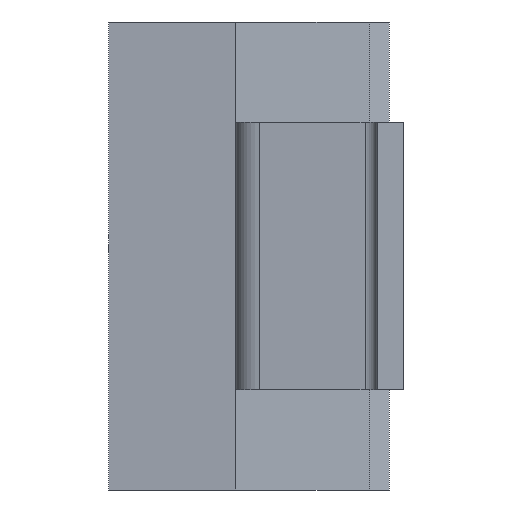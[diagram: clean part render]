
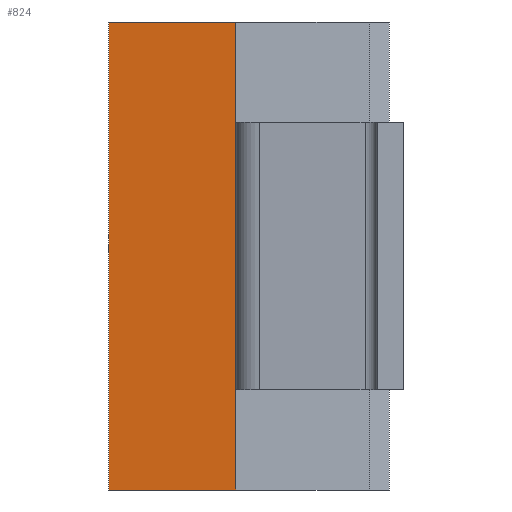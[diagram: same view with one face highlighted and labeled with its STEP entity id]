
A CAD part, left-side view. The second image highlights one B-rep face of the part: STEP entity #824.
In plain terms, the highlighted planar face has unit normal (-0.996, 0.087, 0).
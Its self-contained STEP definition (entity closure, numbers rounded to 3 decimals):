
#36 = DIRECTION ( 'NONE',  ( 0., 0., -1. ) ) ;
#62 = CARTESIAN_POINT ( 'NONE',  ( -15.307, 6.072, 1.016 ) ) ;
#68 = CARTESIAN_POINT ( 'NONE',  ( -15.307, 6.072, -1.778 ) ) ;
#100 = VERTEX_POINT ( 'NONE', #484 ) ;
#120 = VECTOR ( 'NONE', #793, 1000. ) ;
#148 = DIRECTION ( 'NONE',  ( 0., 0., -1. ) ) ;
#168 = CARTESIAN_POINT ( 'NONE',  ( -15.307, 6.072, -1.778 ) ) ;
#230 = ORIENTED_EDGE ( 'NONE', *, *, #995, .F. ) ;
#268 = EDGE_CURVE ( 'NONE', #673, #347, #959, .T. ) ;
#281 = VECTOR ( 'NONE', #148, 1000. ) ;
#286 = DIRECTION ( 'NONE',  ( 0., 0., -1. ) ) ;
#347 = VERTEX_POINT ( 'NONE', #382 ) ;
#382 = CARTESIAN_POINT ( 'NONE',  ( -15.222, 7.037, -1.778 ) ) ;
#397 = ORIENTED_EDGE ( 'NONE', *, *, #268, .T. ) ;
#438 = EDGE_CURVE ( 'NONE', #673, #1103, #1239, .T. ) ;
#448 = PLANE ( 'NONE',  #1222 ) ;
#484 = CARTESIAN_POINT ( 'NONE',  ( -15.307, 6.072, -1.016 ) ) ;
#508 = ORIENTED_EDGE ( 'NONE', *, *, #606, .F. ) ;
#603 = ORIENTED_EDGE ( 'NONE', *, *, #438, .F. ) ;
#606 = EDGE_CURVE ( 'NONE', #1245, #100, #721, .T. ) ;
#637 = VECTOR ( 'NONE', #1400, 1000. ) ;
#640 = DIRECTION ( 'NONE',  ( 0.996, -0.087, 0. ) ) ;
#673 = VERTEX_POINT ( 'NONE', #823 ) ;
#709 = CARTESIAN_POINT ( 'NONE',  ( -15.307, 6.072, 1.778 ) ) ;
#721 = LINE ( 'NONE', #746, #1353 ) ;
#746 = CARTESIAN_POINT ( 'NONE',  ( -15.307, 6.072, 1.778 ) ) ;
#793 = DIRECTION ( 'NONE',  ( -0.087, -0.996, 0. ) ) ;
#797 = CARTESIAN_POINT ( 'NONE',  ( -15.307, 6.072, 1.778 ) ) ;
#823 = CARTESIAN_POINT ( 'NONE',  ( -15.222, 7.037, 1.778 ) ) ;
#824 = ADVANCED_FACE ( 'NONE', ( #1229 ), #448, .F. ) ;
#883 = LINE ( 'NONE', #709, #999 ) ;
#959 = LINE ( 'NONE', #1319, #281 ) ;
#995 = EDGE_CURVE ( 'NONE', #1103, #1245, #1581, .T. ) ;
#999 = VECTOR ( 'NONE', #286, 1000. ) ;
#1068 = LINE ( 'NONE', #168, #120 ) ;
#1103 = VERTEX_POINT ( 'NONE', #1363 ) ;
#1106 = EDGE_LOOP ( 'NONE', ( #1309, #1298, #508, #230, #603, #397 ) ) ;
#1174 = EDGE_CURVE ( 'NONE', #347, #1551, #1068, .T. ) ;
#1222 = AXIS2_PLACEMENT_3D ( 'NONE', #1362, #640, #1499 ) ;
#1228 = VECTOR ( 'NONE', #36, 1000. ) ;
#1229 = FACE_OUTER_BOUND ( 'NONE', #1106, .T. ) ;
#1239 = LINE ( 'NONE', #797, #637 ) ;
#1245 = VERTEX_POINT ( 'NONE', #62 ) ;
#1298 = ORIENTED_EDGE ( 'NONE', *, *, #1365, .F. ) ;
#1309 = ORIENTED_EDGE ( 'NONE', *, *, #1174, .T. ) ;
#1319 = CARTESIAN_POINT ( 'NONE',  ( -15.222, 7.037, 1.778 ) ) ;
#1353 = VECTOR ( 'NONE', #1434, 1000. ) ;
#1362 = CARTESIAN_POINT ( 'NONE',  ( -15.307, 6.072, 1.778 ) ) ;
#1363 = CARTESIAN_POINT ( 'NONE',  ( -15.307, 6.072, 1.778 ) ) ;
#1365 = EDGE_CURVE ( 'NONE', #100, #1551, #883, .T. ) ;
#1400 = DIRECTION ( 'NONE',  ( -0.087, -0.996, 0. ) ) ;
#1434 = DIRECTION ( 'NONE',  ( 0., 0., -1. ) ) ;
#1499 = DIRECTION ( 'NONE',  ( 0.087, 0.996, 0. ) ) ;
#1517 = CARTESIAN_POINT ( 'NONE',  ( -15.307, 6.072, 1.778 ) ) ;
#1551 = VERTEX_POINT ( 'NONE', #68 ) ;
#1581 = LINE ( 'NONE', #1517, #1228 ) ;
